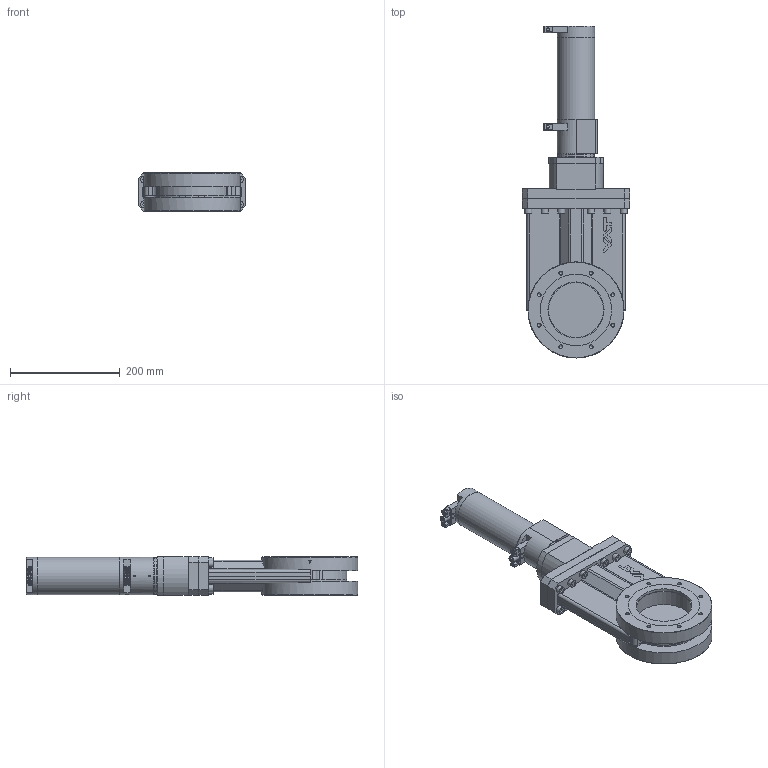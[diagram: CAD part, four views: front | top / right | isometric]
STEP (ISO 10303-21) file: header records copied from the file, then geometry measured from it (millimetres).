
FILE_DESCRIPTION(/* description */ (''),/* implementation_level */ '2;1');
FILE_NAME(/* name */ '1105600000_203.stp',/* time_stamp */ '2015-03-02T13:32:30+01:00',/* author */ (''),/* organization */ (''),/* preprocessor_version */ 'ST-DEVELOPER v11',/* originating_system */ 'SIEMENS PLM Software NX 7.5',/* authorisation */ '');
FILE_SCHEMA (('AP203_CONFIGURATION_CONTROLLED_3D_DESIGN_OF_MECHANICAL_PARTS_AND_ASSEMBLIES_MIM_LF'));
Length unit declared in the file: millimetre
Products named in the file (39): 92838-01_4.2; 92838-01_1.2; 80477-01.1; N-7100-005_2.1; 80478-01.1; N-6195-007.2; 93115-01.1; 87105-01.1; N-6121-032.2; 98926-01.1; 73662-01.1; 387430_19685ID; 557664; 386549_19686ID; 386549_19689ID; 717226; 742300; 367561.2; n-6005-083.1; 83699-01.1; 83414-01.1; 83529-01.1; 77379-01.1; N-6016-478.2; 545335; 387433_19695ID; 446991; 224837.1; 717224_MODEL; 87090-r1.22_NX-ARRAGMNTunbetaetigt Hub 0mm (mit Feder); 87090-r1.22_NX-ARRAGMNTclose_213913 Hub 2,95mm (mit Feder); 98926-r1.1; 740313_NX-ARRAGMNTMassbild Ventil geschlossen; 78856-R1.3; 78855-r1.9_NX-ARRAGMNTMassbild, alle Innenteile unterdrueckt; 784167_MODEL; 386541_NX-ARRAGMNTGehäuseschale_kpl_bearbeitet; 387438_NX-ARRAGMNTGehäuse_kpl_Massbild; 789278
Assembly tree (60 placements, depth 4):
  789278
    387438_NX-ARRAGMNTGehäuse_kpl_Massbild
      387433_19695ID
      386541_NX-ARRAGMNTGehäuseschale_kpl_bearbeitet
        386549_19689ID
        386549_19686ID
        557664
      545335  x2
      784167_MODEL
        387430_19685ID
    78855-r1.9_NX-ARRAGMNTMassbild, alle Innenteile unterdrueckt  x2
      N-6016-478.2
      78856-R1.3
        73662-01.1
      77379-01.1
    740313_NX-ARRAGMNTMassbild Ventil geschlossen
      98926-r1.1
        98926-01.1
        N-6121-032.2
      83529-01.1
      83414-01.1  x2
      87090-r1.22_NX-ARRAGMNTclose_213913 Hub 2,95mm (mit Feder)
        87105-01.1
        93115-01.1
        N-6195-007.2
        80478-01.1
        N-7100-005_2.1
        80477-01.1
        92838-01_1.2
      83699-01.1
      87090-r1.22_NX-ARRAGMNTunbetaetigt Hub 0mm (mit Feder)
        87105-01.1
        93115-01.1
        N-6195-007.2
        80478-01.1
        92838-01_4.2
        N-7100-005_2.1
        80477-01.1
      n-6005-083.1
    224837.1  x12
    717224_MODEL
      367561.2  x2
      742300
      717226
    446991
Bounding box: 195 x 604.83 x 70 mm (x, y, z)
Volume: 2057938.3 mm3; surface area: 572174.1 mm2
Topology: 80 solids, 80 shells, 1564 faces, 3918 edges, 2593 vertices
Faces by surface type: plane 816, cylinder 509, cone 120, bspline 70, torus 30, extrusion 16, revolution 2, sphere 1
Full cylindrical faces by diameter (mm): 1.875 x2, 2.115 x8, 2.475 x6, 2.5 x6, 2.56 x2, 2.575 x2, 3 x7, 3.04 x4, 3.3 x5, 3.5 x10, 4.2 x3, 4.7 x4, 4.8 x1, 5 x2, 5.5 x2, 5.6 x2, 5.65 x2, 5.7 x2, 5.8 x4, 6 x1, 6.475 x2, 6.66 x13, 6.7 x13, 6.8 x34, 6.98 x2, 7.008 x1, 7.018 x1, 7.045 x2, 7.925 x4, 7.984 x2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
Entity records: 43557 total; most frequent: CARTESIAN_POINT 12241, DIRECTION 5113, ORIENTED_EDGE 4932, EDGE_CURVE 2466, AXIS2_PLACEMENT_3D 1963, VERTEX_POINT 1814, EDGE_LOOP 1534, VECTOR 1186
